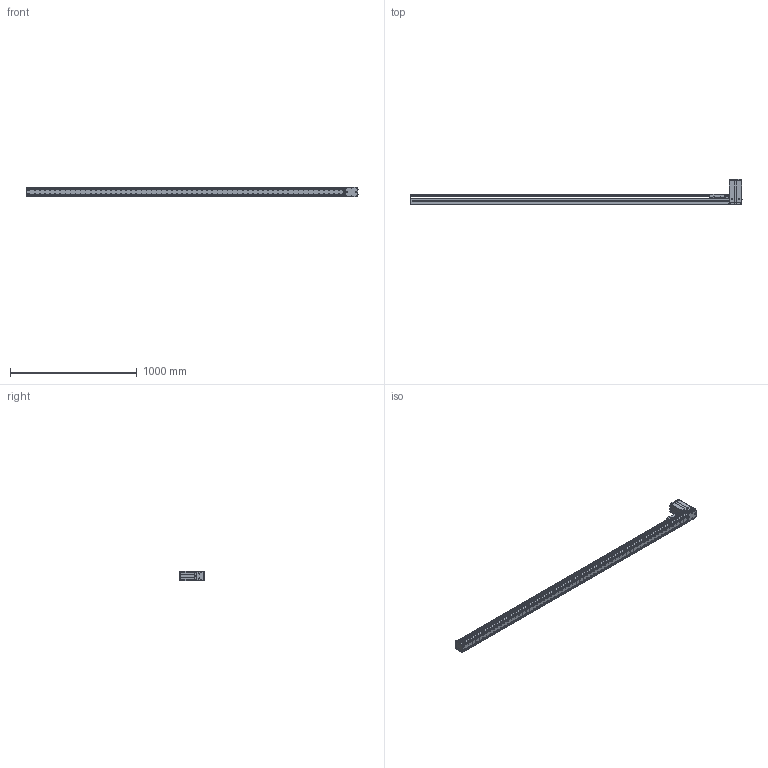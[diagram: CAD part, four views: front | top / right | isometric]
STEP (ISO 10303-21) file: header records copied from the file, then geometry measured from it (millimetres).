
FILE_DESCRIPTION((''),'2;1');
FILE_NAME('BE10_-BT-M_N-P0_IGS_PRT','2017-06-18T',(' '),(''),'PRO/ENGINEER BY PARAMETRIC TECHNOLOGY CORPORATION, 2015030','PRO/ENGINEER BY PARAMETRIC TECHNOLOGY CORPORATION, 2015030','');
FILE_SCHEMA(('CONFIG_CONTROL_DESIGN'));
Products named in the file (1): BE10_-BT-M_N-P0_IGS_PRT
Bounding box: 2620.8 x 204.72 x 78 mm (x, y, z)
Volume: 3358442.9 mm3; surface area: 2360153 mm2
Topology: 5 solids, 203 shells, 2478 faces, 6808 edges, 4550 vertices
Faces by surface type: cylinder 1228, plane 1087, cone 107, sphere 28, torus 25, bspline 3
Entity records: 81311 total; most frequent: CARTESIAN_POINT 16675, DIRECTION 13810, ORIENTED_EDGE 12700, EDGE_CURVE 6736, AXIS2_PLACEMENT_3D 5123, VERTEX_POINT 4545, VECTOR 3564, LINE 3564
